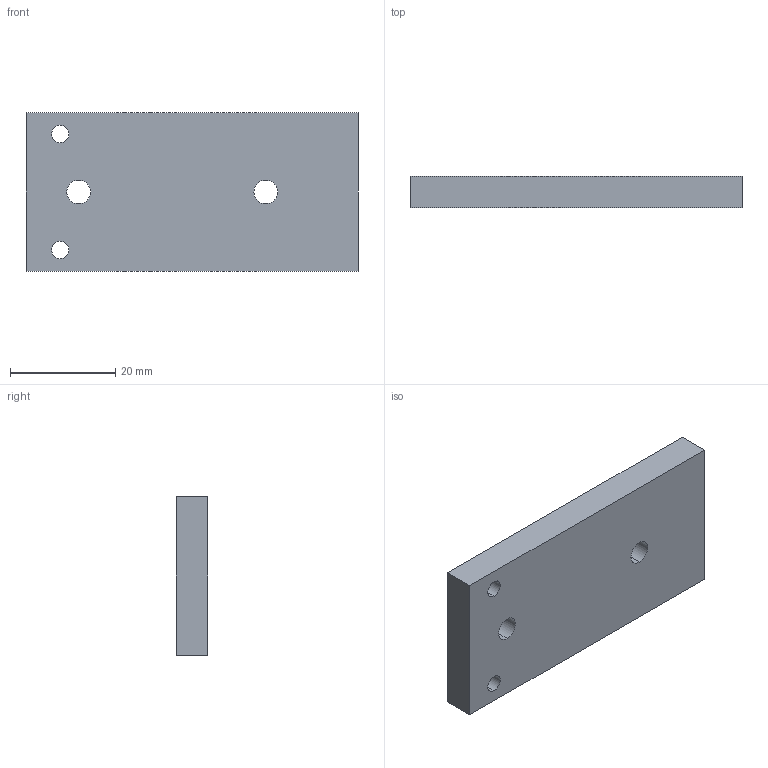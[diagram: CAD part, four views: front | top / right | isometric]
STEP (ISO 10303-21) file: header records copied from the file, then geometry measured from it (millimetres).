
FILE_DESCRIPTION (( 'STEP AP203' ), '1' );
FILE_NAME ('084.604.001.STEP', '2015-02-10T16:05:00', ( '' ), ( '' ), 'SwSTEP 2.0', 'SolidWorks 2012', '' );
FILE_SCHEMA (( 'CONFIG_CONTROL_DESIGN' ));
Length unit declared in the file: millimetre
Products named in the file (1): 084.604.001
Bounding box: 63 x 6 x 30 mm (x, y, z)
Volume: 10930.9 mm3; surface area: 5067.3 mm2
Topology: 1 solids, 1 shells, 18 faces, 44 edges, 28 vertices
Faces by surface type: cylinder 8, plane 6, cone 4
Entity records: 629 total; most frequent: DIRECTION 102, CARTESIAN_POINT 91, ORIENTED_EDGE 88, EDGE_CURVE 44, AXIS2_PLACEMENT_3D 39, VERTEX_POINT 28, EDGE_LOOP 26, VECTOR 24
